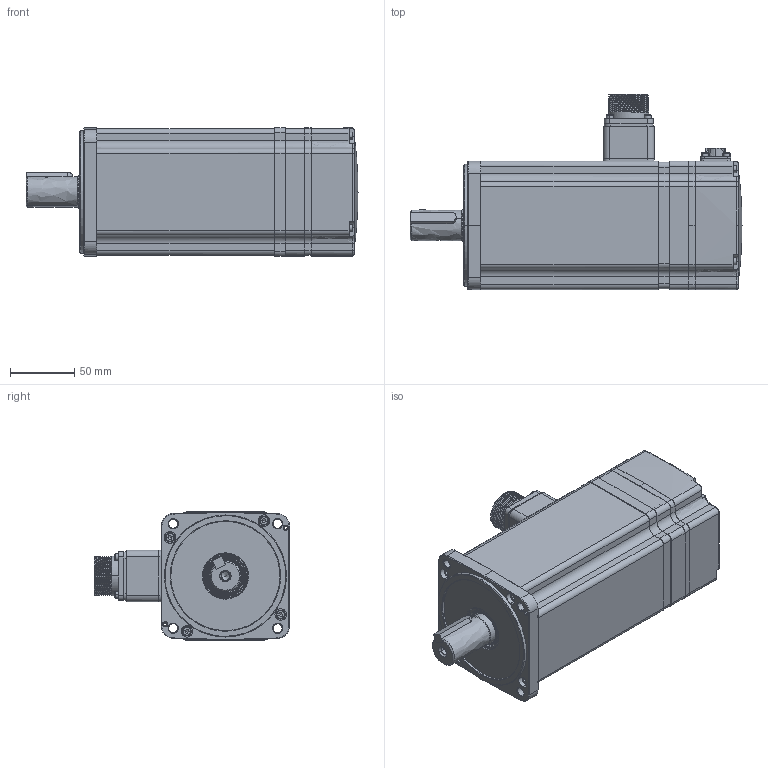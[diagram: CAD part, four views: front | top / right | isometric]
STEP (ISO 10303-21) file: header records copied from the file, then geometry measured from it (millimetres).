
FILE_DESCRIPTION (( 'STEP AP214' ), '1' );
FILE_NAME ('EM3A-20.STEP', '2020-04-08T05:03:42', ( '' ), ( '' ), 'SwSTEP 2.0', 'SolidWorks 2018', '' );
FILE_SCHEMA (( 'AUTOMOTIVE_DESIGN' ));
Length unit declared in the file: millimetre
Products named in the file (49): hexagon socket head cap screws gb_GB_FASTENER_SCREWS_HSHCS M4X20-NHDA.IGS; hexagon socket head cap screws gb_GB_FASTENER_SCREWS_HSHCS M3X25-NHDA.IGS; 复件 10产品装配^复件 插座  SC-CMV1-R10P_EM3A-20.IGS; 复件 10产品装配_1^复件 插座  SC-CMV1-R10P_EM3A-20.IGS; 葩璃 蚐猾 ^EM3A-20.IGS; hexagon socket head cap screws gb_GB_FASTENER_SCREWS_HSHCS M3X10-NHDA.IGS; 葩璃 脣釱  HMS3102E20-18P[L]^EM3A-20.IGS; 葩璃 EMG10A-270-B(萇埭竘盄碟)^EM3A-20.IGS; 复件 EMG10A-280-B（电源引线垫）^EM3A-20.IGS; 复件 EM3A15A-410-A-S（编码器罩）^EM3A-20.IGS; 复件 EM3A20A-133-A-S（编码器底座）^EM3A-20.IGS; 复件 EM3A20A-132-A-S（隔热件）^EM3A-20.IGS; 复件 EM3A20A-130-A-S（后端盖）^EM3A-20.IGS; 复件 EM3A20A-210-A-S（机壳）^EM3A-20.IGS; 复件 EM3A20A-310-A-S（轴）^EM3A-20.IGS; 复件 EM3A20A-120-A-S（前端盖）^EM3A-20.IGS; EM3A-20; EM3A-20.IGS; 复件 半圆头普通平键  C8×36^EM3A-20.IGS
Assembly tree (31 placements, depth 3):
  hexagon socket head cap screws gb_GB_FASTENER_SCREWS_HSHCS M4X20-NHDA.IGS
  复件 10产品装配^复件 插座  SC-CMV1-R10P_EM3A-20.IGS
  复件 10产品装配_1^复件 插座  SC-CMV1-R10P_EM3A-20.IGS
  葩璃 蚐猾 ^EM3A-20.IGS
  hexagon socket head cap screws gb_GB_FASTENER_SCREWS_HSHCS M3X10-NHDA.IGS
Bounding box: 258.5 x 152.05 x 100 mm (x, y, z)
Volume: 972861.2 mm3; surface area: 292135.1 mm2
Topology: 30 solids, 32 shells, 1637 faces, 4146 edges, 2624 vertices
Faces by surface type: bspline 1637
Entity records: 60704 total; most frequent: CARTESIAN_POINT 36610, ORIENTED_EDGE 6696, EDGE_CURVE 3356, B_SPLINE_CURVE_WITH_KNOTS 2392, VERTEX_POINT 2195, EDGE_LOOP 1597, ADVANCED_FACE 1312, FACE_OUTER_BOUND 1312
